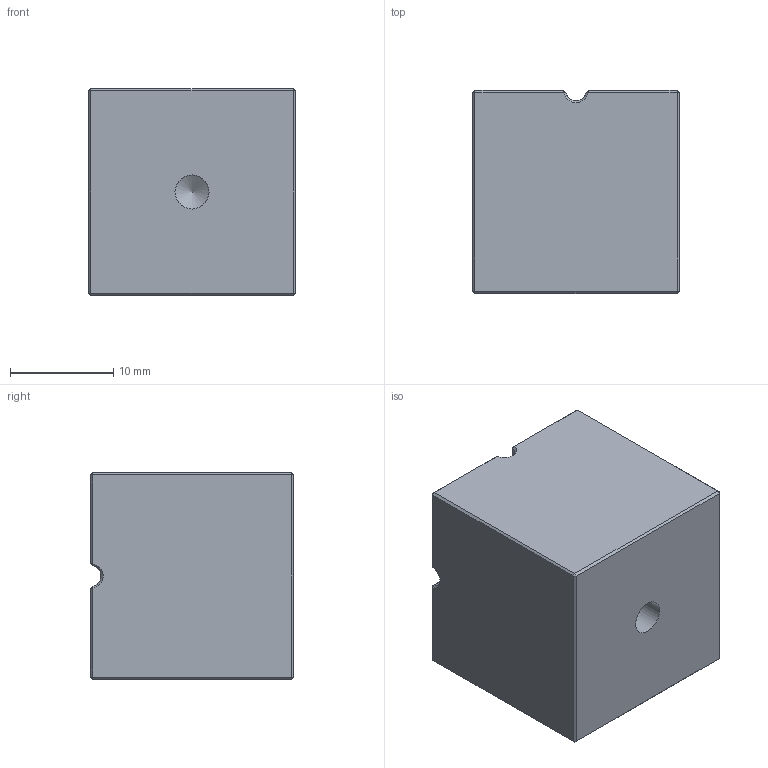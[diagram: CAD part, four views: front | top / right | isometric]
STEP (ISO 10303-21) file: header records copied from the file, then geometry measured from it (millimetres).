
FILE_DESCRIPTION (( 'STEP AP214' ), '1' );
FILE_NAME ('12.7mm pbs蝶梜嘐隅.STEP', '2026-10-31T08:34:49', ( '' ), ( '' ), 'SwSTEP 2.0', 'SolidWorks 2022', '' );
FILE_SCHEMA (( 'AUTOMOTIVE_DESIGN' ));
Length unit declared in the file: millimetre
Products named in the file (1): 12.7mm pbs蝶梜嘐隅
Bounding box: 20 x 19.65 x 20 mm (x, y, z)
Volume: 7607.3 mm3; surface area: 2473.2 mm2
Topology: 1 solids, 1 shells, 102 faces, 212 edges, 121 vertices
Faces by surface type: plane 75, cylinder 18, cone 9
Full cylindrical faces by diameter (mm): 1 x9, 3.3 x1
Entity records: 2605 total; most frequent: CARTESIAN_POINT 471, DIRECTION 438, ORIENTED_EDGE 400, EDGE_CURVE 200, AXIS2_PLACEMENT_3D 151, LINE 136, VECTOR 136, EDGE_LOOP 122
